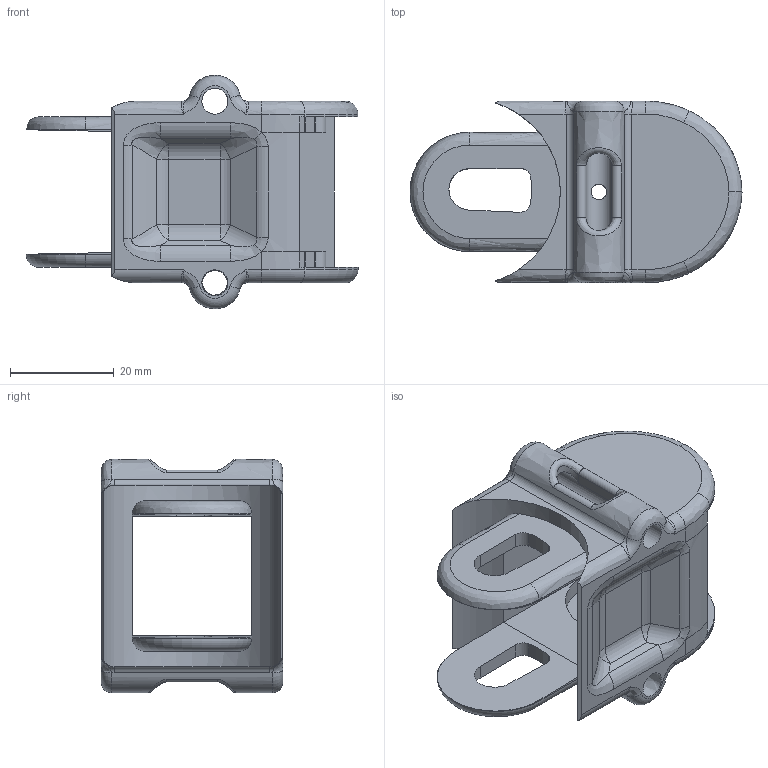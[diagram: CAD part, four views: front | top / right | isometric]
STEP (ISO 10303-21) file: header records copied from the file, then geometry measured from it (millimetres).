
FILE_DESCRIPTION((''),'2;1');
FILE_NAME('E:\Uebbing\temp\PFR 121\PFR121-KAnschluss.stp','2010-08-16T10:06:55',('UebbingXP'),(''),'Autodesk Inventor 10','Autodesk Inventor 10','');
FILE_SCHEMA(('AUTOMOTIVE_DESIGN { 1 0 10303 214 1 1 1 1 }'));
Length unit declared in the file: millimetre
Products named in the file (1): PFR121-KAnschluss
Bounding box: 64 x 35 x 45 mm (x, y, z)
Volume: 19044.4 mm3; surface area: 13567.2 mm2
Topology: 1 solids, 1 shells, 207 faces, 532 edges, 316 vertices
Faces by surface type: bspline 112, cylinder 47, plane 41, torus 7
Full cylindrical faces by diameter (mm): 3 x1, 5 x1
Entity records: 17673 total; most frequent: CARTESIAN_POINT 13092, ORIENTED_EDGE 1028, DIRECTION 826, EDGE_CURVE 514, VERTEX_POINT 312, AXIS2_PLACEMENT_3D 288, VECTOR 250, LINE 250
